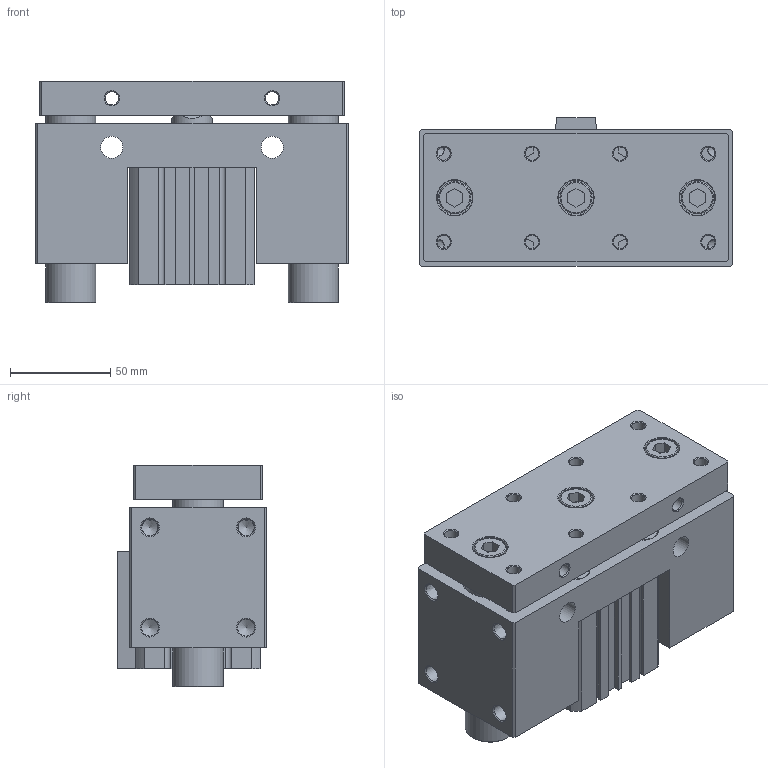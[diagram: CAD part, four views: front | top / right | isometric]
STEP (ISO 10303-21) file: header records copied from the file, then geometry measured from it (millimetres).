
FILE_DESCRIPTION((''),'2;1');
FILE_NAME('I:\3D電子目錄\氣缸\JCB\JCB\JCB50-S\JCB50x20-S.stp','2007-08-30T16:29:58',('Administrator'),(''),'Autodesk Inventor 11','Autodesk Inventor 11','');
FILE_SCHEMA(('AUTOMOTIVE_DESIGN { 1 0 10303 214 1 1 1 1 }'));
Length unit declared in the file: millimetre
Products named in the file (1): JCB50
Bounding box: 156 x 74 x 110.5 mm (x, y, z)
Volume: 862331.4 mm3; surface area: 161138 mm2
Topology: 3 solids, 3 shells, 328 faces, 786 edges, 510 vertices
Faces by surface type: plane 190, cylinder 58, cone 45, bspline 31, torus 4
Full cylindrical faces by diameter (mm): 2.7 x2, 6.8 x4, 8.376 x4, 11 x8, 13 x4, 14 x4, 16 x3, 17.5 x3, 20 x1, 21 x1, 25 x2, 28 x2, 37 x1, 38 x1, 52 x4, 55 x2
Entity records: 9390 total; most frequent: CARTESIAN_POINT 2294, DIRECTION 1434, ORIENTED_EDGE 1264, EDGE_CURVE 632, EDGE_LOOP 536, AXIS2_PLACEMENT_3D 512, VERTEX_POINT 480, VECTOR 410
